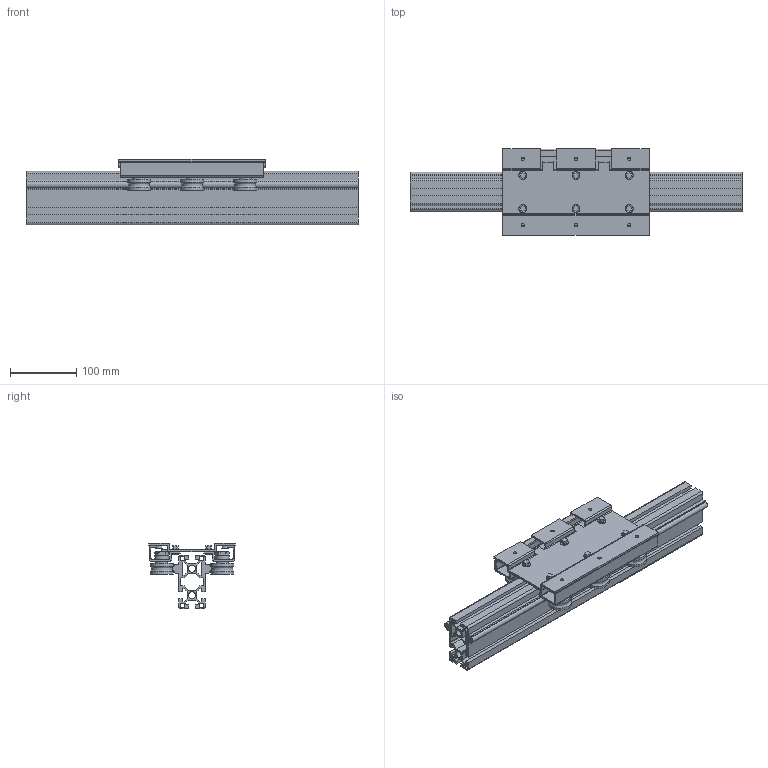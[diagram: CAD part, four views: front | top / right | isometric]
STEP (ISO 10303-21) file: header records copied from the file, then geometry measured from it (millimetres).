
FILE_DESCRIPTION((''),'2;1');
FILE_NAME('C:\Documents and Settings\土屋\My Documents\土屋移動用フォルダ\製品 (図面)\LSダウンロード用図面\新型キャリッジ\縦型LS-L\step形式\LS4080AL.stp','2017-08-02T09:35:53',('y'),(''),'Autodesk Inventor 11','Autodesk Inventor 11','');
FILE_SCHEMA(('AUTOMOTIVE_DESIGN { 1 0 10303 214 1 1 1 1 }'));
Length unit declared in the file: millimetre
Products named in the file (3): LS4080AL; LS4080ALレール; LS4080ALキャリッジ
Assembly tree (2 placements, depth 2):
  LS4080AL
    LS4080ALレール
    LS4080ALキャリッジ
Bounding box: 500 x 130 x 98 mm (x, y, z)
Volume: 1075297.7 mm3; surface area: 547709 mm2
Topology: 8 solids, 8 shells, 527 faces, 1320 edges, 846 vertices
Faces by surface type: plane 303, cylinder 116, cone 90, bspline 18
Full cylindrical faces by diameter (mm): 8.8 x6, 10.5 x2, 11 x6, 12 x12, 18 x6, 21 x6, 35 x12
Entity records: 15656 total; most frequent: CARTESIAN_POINT 3548, DIRECTION 2452, ORIENTED_EDGE 2432, EDGE_CURVE 1216, AXIS2_PLACEMENT_3D 866, VERTEX_POINT 828, VECTOR 720, LINE 720
